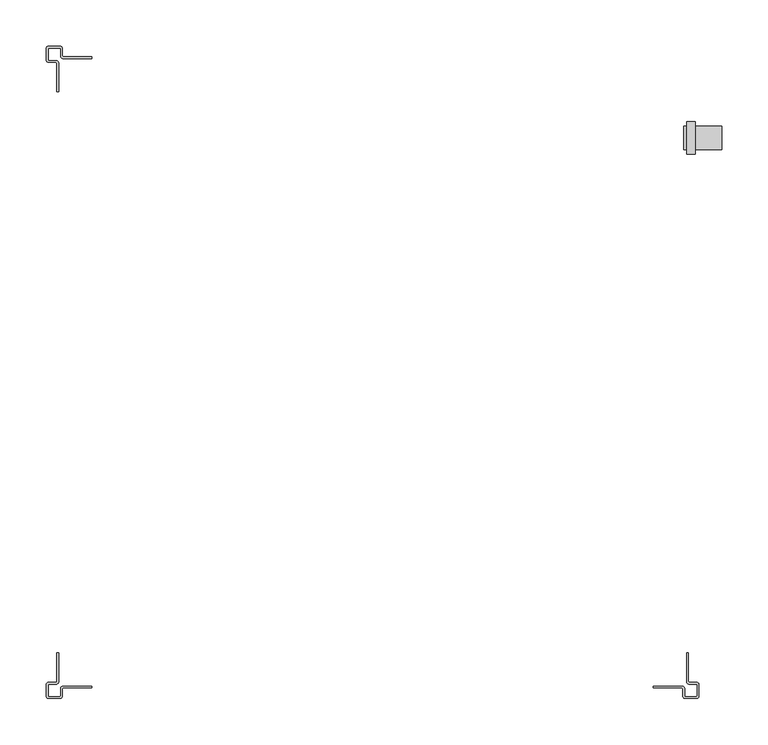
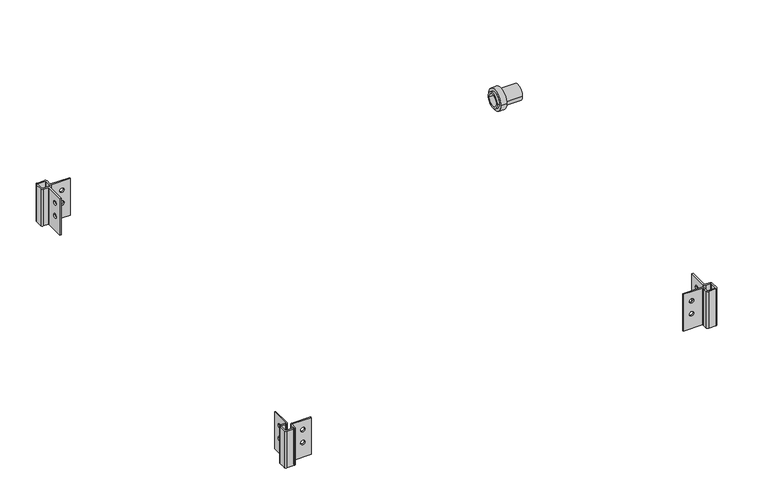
"""IFC4 building model written with IfcOpenShell, lengths in millimetres: proxy geometry, 50 SWHP-C : #50-SWHP-C."""

from ifc_helpers import new_model, si_unit, point, frame, frame_2d, origin, place, context, project, spatial, polyline, circle_curve, trimmed, segment, composite_curve, outline, extrude, source, transform, mapped, element, save
from ifc_brep_helpers import plane_surface, cylinder_surface, revolved_surface, advanced_brep


def generic_models_3e2087b7(model_context):
    return source(origin(), model_context, "Body", "SolidModel", [
        advanced_brep(
        [(341.7316, -303.7332, 63.5), (339.725, -303.7332, 63.5), (339.725, -334.8736, 63.5), (342.4936, -337.6422, 63.5), (350.393, -337.6422, 63.5), (351.155, -338.4042, 63.5), (351.155, -350.393, 63.5), (350.393, -351.155, 63.5), (338.4042, -351.155, 63.5), (337.6422, -350.393, 63.5), (337.6422, -342.4936, 63.5), (334.8736, -339.725, 63.5), (303.7332, -339.725, 63.5), (303.7332, -341.7316, 63.5), (334.8736, -341.7316, 63.5), (335.6356, -342.4936, 63.5), (335.6356, -350.393, 63.5), (338.4042, -353.1616, 63.5), (350.393, -353.1616, 63.5), (353.1616, -350.393, 63.5), (353.1616, -338.4042, 63.5), (350.393, -335.6356, 63.5), (342.4936, -335.6356, 63.5), (341.7316, -334.8736, 63.5), (341.7316, -303.7332, 0.0), (341.7316, -334.8736, 0.0), (342.4936, -335.6356, 0.0), (350.393, -335.6356, 0.0), (353.1616, -338.4042, 0.0), (353.1616, -350.393, 0.0), (350.393, -353.1616, 0.0), (338.4042, -353.1616, 0.0), (335.6356, -350.393, 0.0), (335.6356, -342.4936, 0.0), (334.8736, -341.7316, 0.0), (303.7332, -341.7316, 0.0), (303.7332, -339.725, 0.0), (334.8736, -339.725, 0.0), (337.6422, -342.4936, 0.0), (337.6422, -350.393, 0.0), (338.4042, -351.155, 0.0), (350.393, -351.155, 0.0), (351.155, -350.393, 0.0), (351.155, -338.4042, 0.0), (350.393, -337.6422, 0.0), (342.4936, -337.6422, 0.0), (339.725, -334.8736, 0.0), (339.725, -303.7332, 0.0), (339.725, -321.0687, 47.625), (339.725, -313.9313, 47.625), (339.725, -321.0687, 25.4), (339.725, -313.9313, 25.4), (313.9313, -339.725, 47.625), (321.0687, -339.725, 47.625), (313.9313, -339.725, 25.4), (321.0687, -339.725, 25.4), (321.0687, -341.7316, 47.625), (313.9313, -341.7316, 47.625), (321.0687, -341.7316, 25.4), (313.9313, -341.7316, 25.4), (341.7316, -313.9313, 47.625), (341.7316, -321.0687, 47.625), (341.7316, -313.9313, 25.4), (341.7316, -321.0687, 25.4)],
        [
            (0, 1),
            (1, 2),
            (2, 3, circle_curve(frame((342.4936, -334.8736, 63.5), z_axis=(0.0, 0.0, 1.0), x_axis=(1.0, 0.0, 0.0)), 2.7686)),
            (3, 4),
            (4, 5, circle_curve(frame((350.393, -338.4042, 63.5), z_axis=(0.0, 0.0, -1.0), x_axis=(1.0, 0.0, 0.0)), 0.762)),
            (5, 6),
            (6, 7, circle_curve(frame((350.393, -350.393, 63.5), z_axis=(0.0, 0.0, -1.0), x_axis=(1.0, 0.0, 0.0)), 0.762)),
            (7, 8),
            (8, 9, circle_curve(frame((338.4042, -350.393, 63.5), z_axis=(0.0, 0.0, -1.0), x_axis=(1.0, 0.0, 0.0)), 0.762)),
            (9, 10),
            (10, 11, circle_curve(frame((334.8736, -342.4936, 63.5), z_axis=(0.0, 0.0, 1.0), x_axis=(1.0, 0.0, 0.0)), 2.7686)),
            (11, 12),
            (12, 13),
            (13, 14),
            (14, 15, circle_curve(frame((334.8736, -342.4936, 63.5), z_axis=(0.0, 0.0, -1.0), x_axis=(1.0, 0.0, 0.0)), 0.762)),
            (15, 16),
            (16, 17, circle_curve(frame((338.4042, -350.393, 63.5), z_axis=(0.0, 0.0, 1.0), x_axis=(1.0, 0.0, 0.0)), 2.7686)),
            (17, 18),
            (18, 19, circle_curve(frame((350.393, -350.393, 63.5), z_axis=(0.0, 0.0, 1.0), x_axis=(1.0, 0.0, 0.0)), 2.7686)),
            (19, 20),
            (20, 21, circle_curve(frame((350.393, -338.4042, 63.5), z_axis=(0.0, 0.0, 1.0), x_axis=(1.0, 0.0, 0.0)), 2.7686)),
            (21, 22),
            (22, 23, circle_curve(frame((342.4936, -334.8736, 63.5), z_axis=(0.0, 0.0, -1.0), x_axis=(1.0, 0.0, 0.0)), 0.762)),
            (23, 0),
            (24, 25),
            (25, 26, circle_curve(frame((342.4936, -334.8736, 0.0), z_axis=(0.0, 0.0, 1.0), x_axis=(1.0, 0.0, 0.0)), 0.762)),
            (26, 27),
            (27, 28, circle_curve(frame((350.393, -338.4042, 0.0), z_axis=(0.0, 0.0, -1.0), x_axis=(1.0, 0.0, 0.0)), 2.7686)),
            (28, 29),
            (29, 30, circle_curve(frame((350.393, -350.393, 0.0), z_axis=(0.0, 0.0, -1.0), x_axis=(1.0, 0.0, 0.0)), 2.7686)),
            (30, 31),
            (31, 32, circle_curve(frame((338.4042, -350.393, 0.0), z_axis=(0.0, 0.0, -1.0), x_axis=(1.0, 0.0, 0.0)), 2.7686)),
            (32, 33),
            (33, 34, circle_curve(frame((334.8736, -342.4936, 0.0), z_axis=(0.0, 0.0, 1.0), x_axis=(1.0, 0.0, 0.0)), 0.762)),
            (34, 35),
            (35, 36),
            (36, 37),
            (37, 38, circle_curve(frame((334.8736, -342.4936, 0.0), z_axis=(0.0, 0.0, -1.0), x_axis=(1.0, 0.0, 0.0)), 2.7686)),
            (38, 39),
            (39, 40, circle_curve(frame((338.4042, -350.393, 0.0), z_axis=(0.0, 0.0, 1.0), x_axis=(1.0, 0.0, 0.0)), 0.762)),
            (40, 41),
            (41, 42, circle_curve(frame((350.393, -350.393, 0.0), z_axis=(0.0, 0.0, 1.0), x_axis=(1.0, 0.0, 0.0)), 0.762)),
            (42, 43),
            (43, 44, circle_curve(frame((350.393, -338.4042, 0.0), z_axis=(0.0, 0.0, 1.0), x_axis=(1.0, 0.0, 0.0)), 0.762)),
            (44, 45),
            (45, 46, circle_curve(frame((342.4936, -334.8736, 0.0), z_axis=(0.0, 0.0, -1.0), x_axis=(1.0, 0.0, 0.0)), 2.7686)),
            (46, 47),
            (47, 24),
            (0, 24),
            (47, 1),
            (46, 2),
            (48, 49, circle_curve(frame((339.725, -317.5, 47.625), z_axis=(1.0, 0.0, 0.0), x_axis=(0.0, -1.0, 0.0)), 3.5687)),
            (49, 48, circle_curve(frame((339.725, -317.5, 47.625), z_axis=(1.0, 0.0, 0.0), x_axis=(0.0, -1.0, 0.0)), 3.5687)),
            (50, 51, circle_curve(frame((339.725, -317.5, 25.4), z_axis=(1.0, 0.0, 0.0), x_axis=(0.0, -1.0, 0.0)), 3.5687)),
            (51, 50, circle_curve(frame((339.725, -317.5, 25.4), z_axis=(1.0, 0.0, 0.0), x_axis=(0.0, -1.0, 0.0)), 3.5687)),
            (45, 3),
            (44, 4),
            (43, 5),
            (42, 6),
            (41, 7),
            (40, 8),
            (39, 9),
            (38, 10),
            (37, 11),
            (36, 12),
            (52, 53, circle_curve(frame((317.5, -339.725, 47.625), z_axis=(0.0, -1.0, 0.0), x_axis=(-1.0, 0.0, 0.0)), 3.5687)),
            (53, 52, circle_curve(frame((317.5, -339.725, 47.625), z_axis=(0.0, -1.0, 0.0), x_axis=(-1.0, 0.0, 0.0)), 3.5687)),
            (54, 55, circle_curve(frame((317.5, -339.725, 25.4), z_axis=(0.0, -1.0, 0.0), x_axis=(-1.0, 0.0, 0.0)), 3.5687)),
            (55, 54, circle_curve(frame((317.5, -339.725, 25.4), z_axis=(0.0, -1.0, 0.0), x_axis=(-1.0, 0.0, 0.0)), 3.5687)),
            (35, 13),
            (34, 14),
            (56, 57, circle_curve(frame((317.5, -341.7316, 47.625), z_axis=(0.0, 1.0, 0.0), x_axis=(-1.0, 0.0, 0.0)), 3.5687)),
            (57, 56, circle_curve(frame((317.5, -341.7316, 47.625), z_axis=(0.0, 1.0, 0.0), x_axis=(-1.0, 0.0, 0.0)), 3.5687)),
            (58, 59, circle_curve(frame((317.5, -341.7316, 25.4), z_axis=(0.0, 1.0, 0.0), x_axis=(-1.0, 0.0, 0.0)), 3.5687)),
            (59, 58, circle_curve(frame((317.5, -341.7316, 25.4), z_axis=(0.0, 1.0, 0.0), x_axis=(-1.0, 0.0, 0.0)), 3.5687)),
            (33, 15),
            (32, 16),
            (31, 17),
            (30, 18),
            (29, 19),
            (28, 20),
            (27, 21),
            (26, 22),
            (25, 23),
            (60, 61, circle_curve(frame((341.7316, -317.5, 47.625), z_axis=(-1.0, 0.0, 0.0), x_axis=(0.0, -1.0, 0.0)), 3.5687)),
            (61, 60, circle_curve(frame((341.7316, -317.5, 47.625), z_axis=(-1.0, 0.0, 0.0), x_axis=(0.0, -1.0, 0.0)), 3.5687)),
            (62, 63, circle_curve(frame((341.7316, -317.5, 25.4), z_axis=(-1.0, 0.0, 0.0), x_axis=(0.0, -1.0, 0.0)), 3.5687)),
            (63, 62, circle_curve(frame((341.7316, -317.5, 25.4), z_axis=(-1.0, 0.0, 0.0), x_axis=(0.0, -1.0, 0.0)), 3.5687)),
            (56, 53),
            (52, 57),
            (58, 55),
            (54, 59),
            (60, 49),
            (48, 61),
            (62, 51),
            (50, 63),
        ],
        [
            plane_surface(frame((339.725, -303.7332, 63.5), z_axis=(0.0, 0.0, 1.0), x_axis=(-1.0, 0.0, 0.0))),
            plane_surface(frame((339.725, -303.7332, 0.0), z_axis=(0.0, 0.0, -1.0), x_axis=(1.0, 0.0, 0.0))),
            plane_surface(frame((341.7316, -303.7332, 63.5), z_axis=(0.0, 1.0, 0.0), x_axis=(0.0, 0.0, -1.0))),
            plane_surface(frame((339.725, -303.7332, 63.5), z_axis=(-1.0, 0.0, 0.0), x_axis=(0.0, 0.0, -1.0))),
            cylinder_surface(frame((342.4936, -334.8736, 0.0), z_axis=(0.0, 0.0, 1.0), x_axis=(1.0, 0.0, 0.0)), 2.7686),
            plane_surface(frame((342.4936, -337.6422, 63.5), z_axis=(0.0, -1.0, 0.0), x_axis=(0.0, 0.0, -1.0))),
            revolved_surface(polyline([(351.155, -338.4042, 0.0), (351.155, -338.4042, 63.5)]), (350.393, -338.4042, 0.0), (0.0, 0.0, -1.0)),
            plane_surface(frame((351.155, -338.4042, 63.5), z_axis=(-1.0, 0.0, 0.0), x_axis=(0.0, 0.0, -1.0))),
            revolved_surface(polyline([(351.155, -350.393, 0.0), (351.155, -350.393, 63.5)]), (350.393, -350.393, 0.0), (0.0, 0.0, -1.0)),
            plane_surface(frame((350.393, -351.155, 63.5), z_axis=(0.0, 1.0, 0.0), x_axis=(0.0, 0.0, -1.0))),
            revolved_surface(polyline([(339.1662, -350.393, 0.0), (339.1662, -350.393, 63.5)]), (338.4042, -350.393, 0.0), (0.0, 0.0, -1.0)),
            plane_surface(frame((337.6422, -350.393, 63.5), z_axis=(1.0, 0.0, 0.0), x_axis=(0.0, 0.0, -1.0))),
            cylinder_surface(frame((334.8736, -342.4936, 0.0), z_axis=(0.0, 0.0, 1.0), x_axis=(1.0, 0.0, 0.0)), 2.7686),
            plane_surface(frame((334.8736, -339.725, 63.5), z_axis=(0.0, 1.0, 0.0), x_axis=(0.0, 0.0, -1.0))),
            plane_surface(frame((303.7332, -339.725, 63.5), z_axis=(-1.0, 0.0, 0.0), x_axis=(0.0, 0.0, -1.0))),
            plane_surface(frame((303.7332, -341.7316, 63.5), z_axis=(0.0, -1.0, 0.0), x_axis=(0.0, 0.0, -1.0))),
            revolved_surface(polyline([(335.6356, -342.4936, 0.0), (335.6356, -342.4936, 63.5)]), (334.8736, -342.4936, 0.0), (0.0, 0.0, -1.0)),
            plane_surface(frame((335.6356, -342.4936, 63.5), z_axis=(-1.0, 0.0, 0.0), x_axis=(0.0, 0.0, -1.0))),
            cylinder_surface(frame((338.4042, -350.393, 0.0), z_axis=(0.0, 0.0, 1.0), x_axis=(1.0, 0.0, 0.0)), 2.7686),
            plane_surface(frame((338.4042, -353.1616, 63.5), z_axis=(0.0, -1.0, 0.0), x_axis=(0.0, 0.0, -1.0))),
            cylinder_surface(frame((350.393, -350.393, 0.0), z_axis=(0.0, 0.0, 1.0), x_axis=(1.0, 0.0, 0.0)), 2.7686),
            plane_surface(frame((353.1616, -350.393, 63.5), z_axis=(1.0, 0.0, 0.0), x_axis=(0.0, 0.0, -1.0))),
            cylinder_surface(frame((350.393, -338.4042, 0.0), z_axis=(0.0, 0.0, 1.0), x_axis=(1.0, 0.0, 0.0)), 2.7686),
            plane_surface(frame((350.393, -335.6356, 63.5), z_axis=(0.0, 1.0, 0.0), x_axis=(0.0, 0.0, -1.0))),
            revolved_surface(polyline([(343.2556, -334.8736, 0.0), (343.2556, -334.8736, 63.5)]), (342.4936, -334.8736, 0.0), (0.0, 0.0, -1.0)),
            plane_surface(frame((341.7316, -334.8736, 63.5), z_axis=(1.0, 0.0, 0.0), x_axis=(0.0, 0.0, -1.0))),
            revolved_surface(polyline([(313.9313, -339.725, 47.625), (313.9313, -341.7316, 47.625)]), (317.5, -344.3986, 47.625), (0.0, 1.0, 0.0)),
            revolved_surface(polyline([(313.9313, -339.725, 25.4), (313.9313, -341.7316, 25.4)]), (317.5, -344.3986, 25.4), (0.0, 1.0, 0.0)),
            revolved_surface(polyline([(339.725, -321.0687, 47.625), (341.7316, -321.0687, 47.625)]), (344.3986, -317.5, 47.625), (-1.0, 0.0, 0.0)),
            revolved_surface(polyline([(339.725, -321.0687, 25.4), (341.7316, -321.0687, 25.4)]), (344.3986, -317.5, 25.4), (-1.0, 0.0, 0.0)),
        ],
        [
            (0, [[1, 2, 3, 4, 5, 6, 7, 8, 9, 10, 11, 12, 13, 14, 15, 16, 17, 18, 19, 20, 21, 22, 23, 24]]),
            (1, [[25, 26, 27, 28, 29, 30, 31, 32, 33, 34, 35, 36, 37, 38, 39, 40, 41, 42, 43, 44, 45, 46, 47, 48]]),
            (2, [[-1, 49, -48, 50]]),
            (3, [[-2, -50, -47, 51], [52, 53], [54, 55]]),
            (4, [[-3, -51, -46, 56]]),
            (5, [[-4, -56, -45, 57]]),
            (6, [[-5, -57, -44, 58]]),
            (7, [[-6, -58, -43, 59]]),
            (8, [[-7, -59, -42, 60]]),
            (9, [[-8, -60, -41, 61]]),
            (10, [[-9, -61, -40, 62]]),
            (11, [[-10, -62, -39, 63]]),
            (12, [[-11, -63, -38, 64]]),
            (13, [[-12, -64, -37, 65], [66, 67], [68, 69]]),
            (14, [[-13, -65, -36, 70]]),
            (15, [[-14, -70, -35, 71], [72, 73], [74, 75]]),
            (16, [[-15, -71, -34, 76]]),
            (17, [[-16, -76, -33, 77]]),
            (18, [[-17, -77, -32, 78]]),
            (19, [[-18, -78, -31, 79]]),
            (20, [[-19, -79, -30, 80]]),
            (21, [[-20, -80, -29, 81]]),
            (22, [[-21, -81, -28, 82]]),
            (23, [[-22, -82, -27, 83]]),
            (24, [[-23, -83, -26, 84]]),
            (25, [[-24, -84, -25, -49], [85, 86], [87, 88]]),
            (26, [[89, -66, 90, -72]]),
            (26, [[-89, -73, -90, -67]]),
            (27, [[91, -68, 92, -74]]),
            (27, [[-91, -75, -92, -69]]),
            (28, [[93, -52, 94, -85]]),
            (28, [[-93, -86, -94, -53]]),
            (29, [[95, -54, 96, -87]]),
            (29, [[-95, -88, -96, -55]]),
        ],
    ),
        advanced_brep(
        [(-341.7316, -334.8736, 63.5), (-342.4936, -335.6356, 63.5), (-350.393, -335.6356, 63.5), (-353.1616, -338.4042, 63.5), (-353.1616, -350.393, 63.5), (-350.393, -353.1616, 63.5), (-338.4042, -353.1616, 63.5), (-335.6356, -350.393, 63.5), (-335.6356, -342.4936, 63.5), (-334.8736, -341.7316, 63.5), (-303.7332, -341.7316, 63.5), (-303.7332, -339.725, 63.5), (-334.8736, -339.725, 63.5), (-337.6422, -342.4936, 63.5), (-337.6422, -350.393, 63.5), (-338.4042, -351.155, 63.5), (-350.393, -351.155, 63.5), (-351.155, -350.393, 63.5), (-351.155, -338.4042, 63.5), (-350.393, -337.6422, 63.5), (-342.4936, -337.6422, 63.5), (-339.725, -334.8736, 63.5), (-339.725, -303.7332, 63.5), (-341.7316, -303.7332, 63.5), (-341.7316, -334.8736, 0.0), (-341.7316, -303.7332, 0.0), (-339.725, -303.7332, 0.0), (-339.725, -334.8736, 0.0), (-342.4936, -337.6422, 0.0), (-350.393, -337.6422, 0.0), (-351.155, -338.4042, 0.0), (-351.155, -350.393, 0.0), (-350.393, -351.155, 0.0), (-338.4042, -351.155, 0.0), (-337.6422, -350.393, 0.0), (-337.6422, -342.4936, 0.0), (-334.8736, -339.725, 0.0), (-303.7332, -339.725, 0.0), (-303.7332, -341.7316, 0.0), (-334.8736, -341.7316, 0.0), (-335.6356, -342.4936, 0.0), (-335.6356, -350.393, 0.0), (-338.4042, -353.1616, 0.0), (-350.393, -353.1616, 0.0), (-353.1616, -350.393, 0.0), (-353.1616, -338.4042, 0.0), (-350.393, -335.6356, 0.0), (-342.4936, -335.6356, 0.0), (-313.9313, -341.7316, 47.625), (-321.0687, -341.7316, 47.625), (-313.9313, -341.7316, 25.4), (-321.0687, -341.7316, 25.4), (-321.0687, -339.725, 47.625), (-313.9313, -339.725, 47.625), (-321.0687, -339.725, 25.4), (-313.9313, -339.725, 25.4), (-339.725, -313.9313, 47.625), (-339.725, -321.0687, 47.625), (-339.725, -313.9313, 25.4), (-339.725, -321.0687, 25.4), (-341.7316, -321.0687, 47.625), (-341.7316, -313.9313, 47.625), (-341.7316, -321.0687, 25.4), (-341.7316, -313.9313, 25.4)],
        [
            (0, 1, circle_curve(frame((-342.4936, -334.8736, 63.5), z_axis=(0.0, 0.0, -1.0), x_axis=(1.0, 0.0, 0.0)), 0.762)),
            (1, 2),
            (2, 3, circle_curve(frame((-350.393, -338.4042, 63.5), z_axis=(0.0, 0.0, 1.0), x_axis=(1.0, 0.0, 0.0)), 2.7686)),
            (3, 4),
            (4, 5, circle_curve(frame((-350.393, -350.393, 63.5), z_axis=(0.0, 0.0, 1.0), x_axis=(1.0, 0.0, 0.0)), 2.7686)),
            (5, 6),
            (6, 7, circle_curve(frame((-338.4042, -350.393, 63.5), z_axis=(0.0, 0.0, 1.0), x_axis=(1.0, 0.0, 0.0)), 2.7686)),
            (7, 8),
            (8, 9, circle_curve(frame((-334.8736, -342.4936, 63.5), z_axis=(0.0, 0.0, -1.0), x_axis=(1.0, 0.0, 0.0)), 0.762)),
            (9, 10),
            (10, 11),
            (11, 12),
            (12, 13, circle_curve(frame((-334.8736, -342.4936, 63.5), z_axis=(0.0, 0.0, 1.0), x_axis=(1.0, 0.0, 0.0)), 2.7686)),
            (13, 14),
            (14, 15, circle_curve(frame((-338.4042, -350.393, 63.5), z_axis=(0.0, 0.0, -1.0), x_axis=(1.0, 0.0, 0.0)), 0.762)),
            (15, 16),
            (16, 17, circle_curve(frame((-350.393, -350.393, 63.5), z_axis=(0.0, 0.0, -1.0), x_axis=(1.0, 0.0, 0.0)), 0.762)),
            (17, 18),
            (18, 19, circle_curve(frame((-350.393, -338.4042, 63.5), z_axis=(0.0, 0.0, -1.0), x_axis=(1.0, 0.0, 0.0)), 0.762)),
            (19, 20),
            (20, 21, circle_curve(frame((-342.4936, -334.8736, 63.5), z_axis=(0.0, 0.0, 1.0), x_axis=(1.0, 0.0, 0.0)), 2.7686)),
            (21, 22),
            (22, 23),
            (23, 0),
            (24, 25),
            (25, 26),
            (26, 27),
            (27, 28, circle_curve(frame((-342.4936, -334.8736, 0.0), z_axis=(0.0, 0.0, -1.0), x_axis=(1.0, 0.0, 0.0)), 2.7686)),
            (28, 29),
            (29, 30, circle_curve(frame((-350.393, -338.4042, 0.0), z_axis=(0.0, 0.0, 1.0), x_axis=(1.0, 0.0, 0.0)), 0.762)),
            (30, 31),
            (31, 32, circle_curve(frame((-350.393, -350.393, 0.0), z_axis=(0.0, 0.0, 1.0), x_axis=(1.0, 0.0, 0.0)), 0.762)),
            (32, 33),
            (33, 34, circle_curve(frame((-338.4042, -350.393, 0.0), z_axis=(0.0, 0.0, 1.0), x_axis=(1.0, 0.0, 0.0)), 0.762)),
            (34, 35),
            (35, 36, circle_curve(frame((-334.8736, -342.4936, 0.0), z_axis=(0.0, 0.0, -1.0), x_axis=(1.0, 0.0, 0.0)), 2.7686)),
            (36, 37),
            (37, 38),
            (38, 39),
            (39, 40, circle_curve(frame((-334.8736, -342.4936, 0.0), z_axis=(0.0, 0.0, 1.0), x_axis=(1.0, 0.0, 0.0)), 0.762)),
            (40, 41),
            (41, 42, circle_curve(frame((-338.4042, -350.393, 0.0), z_axis=(0.0, 0.0, -1.0), x_axis=(1.0, 0.0, 0.0)), 2.7686)),
            (42, 43),
            (43, 44, circle_curve(frame((-350.393, -350.393, 0.0), z_axis=(0.0, 0.0, -1.0), x_axis=(1.0, 0.0, 0.0)), 2.7686)),
            (44, 45),
            (45, 46, circle_curve(frame((-350.393, -338.4042, 0.0), z_axis=(0.0, 0.0, -1.0), x_axis=(1.0, 0.0, 0.0)), 2.7686)),
            (46, 47),
            (47, 24, circle_curve(frame((-342.4936, -334.8736, 0.0), z_axis=(0.0, 0.0, 1.0), x_axis=(1.0, 0.0, 0.0)), 0.762)),
            (0, 24),
            (47, 1),
            (46, 2),
            (45, 3),
            (44, 4),
            (43, 5),
            (42, 6),
            (41, 7),
            (40, 8),
            (39, 9),
            (38, 10),
            (48, 49, circle_curve(frame((-317.5, -341.7316, 47.625), z_axis=(0.0, 1.0, 0.0), x_axis=(-1.0, 0.0, 0.0)), 3.5687)),
            (49, 48, circle_curve(frame((-317.5, -341.7316, 47.625), z_axis=(0.0, 1.0, 0.0), x_axis=(-1.0, 0.0, 0.0)), 3.5687)),
            (50, 51, circle_curve(frame((-317.5, -341.7316, 25.4), z_axis=(0.0, 1.0, 0.0), x_axis=(-1.0, 0.0, 0.0)), 3.5687)),
            (51, 50, circle_curve(frame((-317.5, -341.7316, 25.4), z_axis=(0.0, 1.0, 0.0), x_axis=(-1.0, 0.0, 0.0)), 3.5687)),
            (37, 11),
            (36, 12),
            (52, 53, circle_curve(frame((-317.5, -339.725, 47.625), z_axis=(0.0, -1.0, 0.0), x_axis=(-1.0, 0.0, 0.0)), 3.5687)),
            (53, 52, circle_curve(frame((-317.5, -339.725, 47.625), z_axis=(0.0, -1.0, 0.0), x_axis=(-1.0, 0.0, 0.0)), 3.5687)),
            (54, 55, circle_curve(frame((-317.5, -339.725, 25.4), z_axis=(0.0, -1.0, 0.0), x_axis=(-1.0, 0.0, 0.0)), 3.5687)),
            (55, 54, circle_curve(frame((-317.5, -339.725, 25.4), z_axis=(0.0, -1.0, 0.0), x_axis=(-1.0, 0.0, 0.0)), 3.5687)),
            (35, 13),
            (34, 14),
            (33, 15),
            (32, 16),
            (31, 17),
            (30, 18),
            (29, 19),
            (28, 20),
            (27, 21),
            (26, 22),
            (56, 57, circle_curve(frame((-339.725, -317.5, 47.625), z_axis=(-1.0, 0.0, 0.0), x_axis=(0.0, -1.0, 0.0)), 3.5687)),
            (57, 56, circle_curve(frame((-339.725, -317.5, 47.625), z_axis=(-1.0, 0.0, 0.0), x_axis=(0.0, -1.0, 0.0)), 3.5687)),
            (58, 59, circle_curve(frame((-339.725, -317.5, 25.4), z_axis=(-1.0, 0.0, 0.0), x_axis=(0.0, -1.0, 0.0)), 3.5687)),
            (59, 58, circle_curve(frame((-339.725, -317.5, 25.4), z_axis=(-1.0, 0.0, 0.0), x_axis=(0.0, -1.0, 0.0)), 3.5687)),
            (25, 23),
            (60, 61, circle_curve(frame((-341.7316, -317.5, 47.625), z_axis=(1.0, 0.0, 0.0), x_axis=(0.0, -1.0, 0.0)), 3.5687)),
            (61, 60, circle_curve(frame((-341.7316, -317.5, 47.625), z_axis=(1.0, 0.0, 0.0), x_axis=(0.0, -1.0, 0.0)), 3.5687)),
            (62, 63, circle_curve(frame((-341.7316, -317.5, 25.4), z_axis=(1.0, 0.0, 0.0), x_axis=(0.0, -1.0, 0.0)), 3.5687)),
            (63, 62, circle_curve(frame((-341.7316, -317.5, 25.4), z_axis=(1.0, 0.0, 0.0), x_axis=(0.0, -1.0, 0.0)), 3.5687)),
            (56, 61),
            (60, 57),
            (58, 63),
            (62, 59),
            (48, 53),
            (52, 49),
            (50, 55),
            (54, 51),
        ],
        [
            plane_surface(frame((-341.7316, -334.8736, 63.5), z_axis=(0.0, 0.0, 1.0), x_axis=(0.0, -1.0, 0.0))),
            plane_surface(frame((-341.7316, -334.8736, 0.0), z_axis=(0.0, 0.0, -1.0), x_axis=(0.0, 1.0, 0.0))),
            revolved_surface(polyline([(-341.7316, -334.8736, 0.0), (-341.7316, -334.8736, 63.5)]), (-342.4936, -334.8736, 0.0), (0.0, 0.0, -1.0)),
            plane_surface(frame((-342.4936, -335.6356, 63.5), z_axis=(0.0, 1.0, 0.0), x_axis=(0.0, 0.0, -1.0))),
            cylinder_surface(frame((-350.393, -338.4042, 0.0), z_axis=(0.0, 0.0, 1.0), x_axis=(1.0, 0.0, 0.0)), 2.7686),
            plane_surface(frame((-353.1616, -338.4042, 63.5), z_axis=(-1.0, 0.0, 0.0), x_axis=(0.0, 0.0, -1.0))),
            cylinder_surface(frame((-350.393, -350.393, 0.0), z_axis=(0.0, 0.0, 1.0), x_axis=(1.0, 0.0, 0.0)), 2.7686),
            plane_surface(frame((-350.393, -353.1616, 63.5), z_axis=(0.0, -1.0, 0.0), x_axis=(0.0, 0.0, -1.0))),
            cylinder_surface(frame((-338.4042, -350.393, 0.0), z_axis=(0.0, 0.0, 1.0), x_axis=(1.0, 0.0, 0.0)), 2.7686),
            plane_surface(frame((-335.6356, -350.393, 63.5), z_axis=(1.0, 0.0, 0.0), x_axis=(0.0, 0.0, -1.0))),
            revolved_surface(polyline([(-334.1116, -342.4936, 0.0), (-334.1116, -342.4936, 63.5)]), (-334.8736, -342.4936, 0.0), (0.0, 0.0, -1.0)),
            plane_surface(frame((-334.8736, -341.7316, 63.5), z_axis=(0.0, -1.0, 0.0), x_axis=(0.0, 0.0, -1.0))),
            plane_surface(frame((-303.7332, -341.7316, 63.5), z_axis=(1.0, 0.0, 0.0), x_axis=(0.0, 0.0, -1.0))),
            plane_surface(frame((-303.7332, -339.725, 63.5), z_axis=(0.0, 1.0, 0.0), x_axis=(0.0, 0.0, -1.0))),
            cylinder_surface(frame((-334.8736, -342.4936, 0.0), z_axis=(0.0, 0.0, 1.0), x_axis=(1.0, 0.0, 0.0)), 2.7686),
            plane_surface(frame((-337.6422, -342.4936, 63.5), z_axis=(-1.0, 0.0, 0.0), x_axis=(0.0, 0.0, -1.0))),
            revolved_surface(polyline([(-337.6422, -350.393, 0.0), (-337.6422, -350.393, 63.5)]), (-338.4042, -350.393, 0.0), (0.0, 0.0, -1.0)),
            plane_surface(frame((-338.4042, -351.155, 63.5), z_axis=(0.0, 1.0, 0.0), x_axis=(0.0, 0.0, -1.0))),
            revolved_surface(polyline([(-349.631, -350.393, 0.0), (-349.631, -350.393, 63.5)]), (-350.393, -350.393, 0.0), (0.0, 0.0, -1.0)),
            plane_surface(frame((-351.155, -350.393, 63.5), z_axis=(1.0, 0.0, 0.0), x_axis=(0.0, 0.0, -1.0))),
            revolved_surface(polyline([(-349.631, -338.4042, 0.0), (-349.631, -338.4042, 63.5)]), (-350.393, -338.4042, 0.0), (0.0, 0.0, -1.0)),
            plane_surface(frame((-350.393, -337.6422, 63.5), z_axis=(0.0, -1.0, 0.0), x_axis=(0.0, 0.0, -1.0))),
            cylinder_surface(frame((-342.4936, -334.8736, 0.0), z_axis=(0.0, 0.0, 1.0), x_axis=(1.0, 0.0, 0.0)), 2.7686),
            plane_surface(frame((-339.725, -334.8736, 63.5), z_axis=(1.0, 0.0, 0.0), x_axis=(0.0, 0.0, -1.0))),
            plane_surface(frame((-339.725, -303.7332, 63.5), z_axis=(0.0, 1.0, 0.0), x_axis=(0.0, 0.0, -1.0))),
            plane_surface(frame((-341.7316, -303.7332, 63.5), z_axis=(-1.0, 0.0, 0.0), x_axis=(0.0, 0.0, -1.0))),
            revolved_surface(polyline([(-341.7316, -321.0687, 47.625), (-339.725, -321.0687, 47.625)]), (-336.55, -317.5, 47.625), (-1.0, 0.0, 0.0)),
            revolved_surface(polyline([(-341.7316, -321.0687, 25.4), (-339.725, -321.0687, 25.4)]), (-344.3986, -317.5, 25.4), (-1.0, 0.0, 0.0)),
            revolved_surface(polyline([(-321.0687, -339.725, 47.625), (-321.0687, -341.7316, 47.625)]), (-317.5, -344.3986, 47.625), (0.0, 1.0, 0.0)),
            revolved_surface(polyline([(-321.0687, -339.725, 25.4), (-321.0687, -341.7316, 25.4)]), (-317.5, -344.3986, 25.4), (0.0, 1.0, 0.0)),
        ],
        [
            (0, [[1, 2, 3, 4, 5, 6, 7, 8, 9, 10, 11, 12, 13, 14, 15, 16, 17, 18, 19, 20, 21, 22, 23, 24]]),
            (1, [[25, 26, 27, 28, 29, 30, 31, 32, 33, 34, 35, 36, 37, 38, 39, 40, 41, 42, 43, 44, 45, 46, 47, 48]]),
            (2, [[-1, 49, -48, 50]]),
            (3, [[-2, -50, -47, 51]]),
            (4, [[-3, -51, -46, 52]]),
            (5, [[-4, -52, -45, 53]]),
            (6, [[-5, -53, -44, 54]]),
            (7, [[-6, -54, -43, 55]]),
            (8, [[-7, -55, -42, 56]]),
            (9, [[-8, -56, -41, 57]]),
            (10, [[-9, -57, -40, 58]]),
            (11, [[-10, -58, -39, 59], [60, 61], [62, 63]]),
            (12, [[-11, -59, -38, 64]]),
            (13, [[-12, -64, -37, 65], [66, 67], [68, 69]]),
            (14, [[-13, -65, -36, 70]]),
            (15, [[-14, -70, -35, 71]]),
            (16, [[-15, -71, -34, 72]]),
            (17, [[-16, -72, -33, 73]]),
            (18, [[-17, -73, -32, 74]]),
            (19, [[-18, -74, -31, 75]]),
            (20, [[-19, -75, -30, 76]]),
            (21, [[-20, -76, -29, 77]]),
            (22, [[-21, -77, -28, 78]]),
            (23, [[-22, -78, -27, 79], [80, 81], [82, 83]]),
            (24, [[-23, -79, -26, 84]]),
            (25, [[-24, -84, -25, -49], [85, 86], [87, 88]]),
            (26, [[89, -85, 90, -80]]),
            (26, [[-89, -81, -90, -86]]),
            (27, [[91, -87, 92, -82]]),
            (27, [[-91, -83, -92, -88]]),
            (28, [[93, -66, 94, -60]]),
            (28, [[-93, -61, -94, -67]]),
            (29, [[95, -68, 96, -62]]),
            (29, [[-95, -63, -96, -69]]),
        ],
    ),
        advanced_brep(
        [(-303.7332, 341.7316, 63.5), (-334.8736, 341.7316, 63.5), (-335.6356, 342.4936, 63.5), (-335.6356, 350.393, 63.5), (-338.4042, 353.1616, 63.5), (-350.393, 353.1616, 63.5), (-353.1616, 350.393, 63.5), (-353.1616, 338.4042, 63.5), (-350.393, 335.6356, 63.5), (-342.4936, 335.6356, 63.5), (-341.7316, 334.8736, 63.5), (-341.7316, 303.7332, 63.5), (-339.725, 303.7332, 63.5), (-339.725, 334.8736, 63.5), (-342.4936, 337.6422, 63.5), (-350.393, 337.6422, 63.5), (-351.155, 338.4042, 63.5), (-351.155, 350.393, 63.5), (-350.393, 351.155, 63.5), (-338.4042, 351.155, 63.5), (-337.6422, 350.393, 63.5), (-337.6422, 342.4936, 63.5), (-334.8736, 339.725, 63.5), (-303.7332, 339.725, 63.5), (-303.7332, 341.7316, 0.0), (-303.7332, 339.725, 0.0), (-334.8736, 339.725, 0.0), (-337.6422, 342.4936, 0.0), (-337.6422, 350.393, 0.0), (-338.4042, 351.155, 0.0), (-350.393, 351.155, 0.0), (-351.155, 350.393, 0.0), (-351.155, 338.4042, 0.0), (-350.393, 337.6422, 0.0), (-342.4936, 337.6422, 0.0), (-339.725, 334.8736, 0.0), (-339.725, 303.7332, 0.0), (-341.7316, 303.7332, 0.0), (-341.7316, 334.8736, 0.0), (-342.4936, 335.6356, 0.0), (-350.393, 335.6356, 0.0), (-353.1616, 338.4042, 0.0), (-353.1616, 350.393, 0.0), (-350.393, 353.1616, 0.0), (-338.4042, 353.1616, 0.0), (-335.6356, 350.393, 0.0), (-335.6356, 342.4936, 0.0), (-334.8736, 341.7316, 0.0), (-321.0687, 341.7316, 47.625), (-313.9313, 341.7316, 47.625), (-321.0687, 341.7316, 25.4), (-313.9313, 341.7316, 25.4), (-341.7316, 313.9313, 47.625), (-341.7316, 321.0687, 47.625), (-341.7316, 313.9313, 25.4), (-341.7316, 321.0687, 25.4), (-339.725, 321.0687, 47.625), (-339.725, 313.9313, 47.625), (-339.725, 321.0687, 25.4), (-339.725, 313.9313, 25.4), (-313.9313, 339.725, 47.625), (-321.0687, 339.725, 47.625), (-313.9313, 339.725, 25.4), (-321.0687, 339.725, 25.4)],
        [
            (0, 1),
            (1, 2, circle_curve(frame((-334.8736, 342.4936, 63.5), z_axis=(0.0, 0.0, -1.0), x_axis=(1.0, 0.0, 0.0)), 0.762)),
            (2, 3),
            (3, 4, circle_curve(frame((-338.4042, 350.393, 63.5), z_axis=(0.0, 0.0, 1.0), x_axis=(1.0, 0.0, 0.0)), 2.7686)),
            (4, 5),
            (5, 6, circle_curve(frame((-350.393, 350.393, 63.5), z_axis=(0.0, 0.0, 1.0), x_axis=(1.0, 0.0, 0.0)), 2.7686)),
            (6, 7),
            (7, 8, circle_curve(frame((-350.393, 338.4042, 63.5), z_axis=(0.0, 0.0, 1.0), x_axis=(1.0, 0.0, 0.0)), 2.7686)),
            (8, 9),
            (9, 10, circle_curve(frame((-342.4936, 334.8736, 63.5), z_axis=(0.0, 0.0, -1.0), x_axis=(1.0, 0.0, 0.0)), 0.762)),
            (10, 11),
            (11, 12),
            (12, 13),
            (13, 14, circle_curve(frame((-342.4936, 334.8736, 63.5), z_axis=(0.0, 0.0, 1.0), x_axis=(1.0, 0.0, 0.0)), 2.7686)),
            (14, 15),
            (15, 16, circle_curve(frame((-350.393, 338.4042, 63.5), z_axis=(0.0, 0.0, -1.0), x_axis=(1.0, 0.0, 0.0)), 0.762)),
            (16, 17),
            (17, 18, circle_curve(frame((-350.393, 350.393, 63.5), z_axis=(0.0, 0.0, -1.0), x_axis=(1.0, 0.0, 0.0)), 0.762)),
            (18, 19),
            (19, 20, circle_curve(frame((-338.4042, 350.393, 63.5), z_axis=(0.0, 0.0, -1.0), x_axis=(1.0, 0.0, 0.0)), 0.762)),
            (20, 21),
            (21, 22, circle_curve(frame((-334.8736, 342.4936, 63.5), z_axis=(0.0, 0.0, 1.0), x_axis=(1.0, 0.0, 0.0)), 2.7686)),
            (22, 23),
            (23, 0),
            (24, 25),
            (25, 26),
            (26, 27, circle_curve(frame((-334.8736, 342.4936, 0.0), z_axis=(0.0, 0.0, -1.0), x_axis=(1.0, 0.0, 0.0)), 2.7686)),
            (27, 28),
            (28, 29, circle_curve(frame((-338.4042, 350.393, 0.0), z_axis=(0.0, 0.0, 1.0), x_axis=(1.0, 0.0, 0.0)), 0.762)),
            (29, 30),
            (30, 31, circle_curve(frame((-350.393, 350.393, 0.0), z_axis=(0.0, 0.0, 1.0), x_axis=(1.0, 0.0, 0.0)), 0.762)),
            (31, 32),
            (32, 33, circle_curve(frame((-350.393, 338.4042, 0.0), z_axis=(0.0, 0.0, 1.0), x_axis=(1.0, 0.0, 0.0)), 0.762)),
            (33, 34),
            (34, 35, circle_curve(frame((-342.4936, 334.8736, 0.0), z_axis=(0.0, 0.0, -1.0), x_axis=(1.0, 0.0, 0.0)), 2.7686)),
            (35, 36),
            (36, 37),
            (37, 38),
            (38, 39, circle_curve(frame((-342.4936, 334.8736, 0.0), z_axis=(0.0, 0.0, 1.0), x_axis=(1.0, 0.0, 0.0)), 0.762)),
            (39, 40),
            (40, 41, circle_curve(frame((-350.393, 338.4042, 0.0), z_axis=(0.0, 0.0, -1.0), x_axis=(1.0, 0.0, 0.0)), 2.7686)),
            (41, 42),
            (42, 43, circle_curve(frame((-350.393, 350.393, 0.0), z_axis=(0.0, 0.0, -1.0), x_axis=(1.0, 0.0, 0.0)), 2.7686)),
            (43, 44),
            (44, 45, circle_curve(frame((-338.4042, 350.393, 0.0), z_axis=(0.0, 0.0, -1.0), x_axis=(1.0, 0.0, 0.0)), 2.7686)),
            (45, 46),
            (46, 47, circle_curve(frame((-334.8736, 342.4936, 0.0), z_axis=(0.0, 0.0, 1.0), x_axis=(1.0, 0.0, 0.0)), 0.762)),
            (47, 24),
            (0, 24),
            (47, 1),
            (48, 49, circle_curve(frame((-317.5, 341.7316, 47.625), z_axis=(0.0, -1.0, 0.0), x_axis=(-1.0, 0.0, 0.0)), 3.5687)),
            (49, 48, circle_curve(frame((-317.5, 341.7316, 47.625), z_axis=(0.0, -1.0, 0.0), x_axis=(-1.0, 0.0, 0.0)), 3.5687)),
            (50, 51, circle_curve(frame((-317.5, 341.7316, 25.4), z_axis=(0.0, -1.0, 0.0), x_axis=(-1.0, 0.0, 0.0)), 3.5687)),
            (51, 50, circle_curve(frame((-317.5, 341.7316, 25.4), z_axis=(0.0, -1.0, 0.0), x_axis=(-1.0, 0.0, 0.0)), 3.5687)),
            (46, 2),
            (45, 3),
            (44, 4),
            (43, 5),
            (42, 6),
            (41, 7),
            (40, 8),
            (39, 9),
            (38, 10),
            (37, 11),
            (52, 53, circle_curve(frame((-341.7316, 317.5, 47.625), z_axis=(1.0, 0.0, 0.0), x_axis=(0.0, -1.0, 0.0)), 3.5687)),
            (53, 52, circle_curve(frame((-341.7316, 317.5, 47.625), z_axis=(1.0, 0.0, 0.0), x_axis=(0.0, -1.0, 0.0)), 3.5687)),
            (54, 55, circle_curve(frame((-341.7316, 317.5, 25.4), z_axis=(1.0, 0.0, 0.0), x_axis=(0.0, -1.0, 0.0)), 3.5687)),
            (55, 54, circle_curve(frame((-341.7316, 317.5, 25.4), z_axis=(1.0, 0.0, 0.0), x_axis=(0.0, -1.0, 0.0)), 3.5687)),
            (36, 12),
            (35, 13),
            (56, 57, circle_curve(frame((-339.725, 317.5, 47.625), z_axis=(-1.0, 0.0, 0.0), x_axis=(0.0, -1.0, 0.0)), 3.5687)),
            (57, 56, circle_curve(frame((-339.725, 317.5, 47.625), z_axis=(-1.0, 0.0, 0.0), x_axis=(0.0, -1.0, 0.0)), 3.5687)),
            (58, 59, circle_curve(frame((-339.725, 317.5, 25.4), z_axis=(-1.0, 0.0, 0.0), x_axis=(0.0, -1.0, 0.0)), 3.5687)),
            (59, 58, circle_curve(frame((-339.725, 317.5, 25.4), z_axis=(-1.0, 0.0, 0.0), x_axis=(0.0, -1.0, 0.0)), 3.5687)),
            (34, 14),
            (33, 15),
            (32, 16),
            (31, 17),
            (30, 18),
            (29, 19),
            (28, 20),
            (27, 21),
            (26, 22),
            (25, 23),
            (60, 61, circle_curve(frame((-317.5, 339.725, 47.625), z_axis=(0.0, 1.0, 0.0), x_axis=(-1.0, 0.0, 0.0)), 3.5687)),
            (61, 60, circle_curve(frame((-317.5, 339.725, 47.625), z_axis=(0.0, 1.0, 0.0), x_axis=(-1.0, 0.0, 0.0)), 3.5687)),
            (62, 63, circle_curve(frame((-317.5, 339.725, 25.4), z_axis=(0.0, 1.0, 0.0), x_axis=(-1.0, 0.0, 0.0)), 3.5687)),
            (63, 62, circle_curve(frame((-317.5, 339.725, 25.4), z_axis=(0.0, 1.0, 0.0), x_axis=(-1.0, 0.0, 0.0)), 3.5687)),
            (56, 53),
            (52, 57),
            (58, 55),
            (54, 59),
            (60, 49),
            (48, 61),
            (62, 51),
            (50, 63),
        ],
        [
            plane_surface(frame((-334.8736, 341.7316, 63.5), z_axis=(0.0, 0.0, 1.0), x_axis=(-1.0, 0.0, 0.0))),
            plane_surface(frame((-334.8736, 341.7316, 0.0), z_axis=(0.0, 0.0, -1.0), x_axis=(1.0, 0.0, 0.0))),
            plane_surface(frame((-303.7332, 341.7316, 63.5), z_axis=(0.0, 1.0, 0.0), x_axis=(0.0, 0.0, -1.0))),
            revolved_surface(polyline([(-334.1116, 342.4936, 0.0), (-334.1116, 342.4936, 63.5)]), (-334.8736, 342.4936, 0.0), (0.0, 0.0, -1.0)),
            plane_surface(frame((-335.6356, 342.4936, 63.5), z_axis=(1.0, 0.0, 0.0), x_axis=(0.0, 0.0, -1.0))),
            cylinder_surface(frame((-338.4042, 350.393, 0.0), z_axis=(0.0, 0.0, 1.0), x_axis=(1.0, 0.0, 0.0)), 2.7686),
            plane_surface(frame((-338.4042, 353.1616, 63.5), z_axis=(0.0, 1.0, 0.0), x_axis=(0.0, 0.0, -1.0))),
            cylinder_surface(frame((-350.393, 350.393, 0.0), z_axis=(0.0, 0.0, 1.0), x_axis=(1.0, 0.0, 0.0)), 2.7686),
            plane_surface(frame((-353.1616, 350.393, 63.5), z_axis=(-1.0, 0.0, 0.0), x_axis=(0.0, 0.0, -1.0))),
            cylinder_surface(frame((-350.393, 338.4042, 0.0), z_axis=(0.0, 0.0, 1.0), x_axis=(1.0, 0.0, 0.0)), 2.7686),
            plane_surface(frame((-350.393, 335.6356, 63.5), z_axis=(0.0, -1.0, 0.0), x_axis=(0.0, 0.0, -1.0))),
            revolved_surface(polyline([(-341.7316, 334.8736, 0.0), (-341.7316, 334.8736, 63.5)]), (-342.4936, 334.8736, 0.0), (0.0, 0.0, -1.0)),
            plane_surface(frame((-341.7316, 334.8736, 63.5), z_axis=(-1.0, 0.0, 0.0), x_axis=(0.0, 0.0, -1.0))),
            plane_surface(frame((-341.7316, 303.7332, 63.5), z_axis=(0.0, -1.0, 0.0), x_axis=(0.0, 0.0, -1.0))),
            plane_surface(frame((-339.725, 303.7332, 63.5), z_axis=(1.0, 0.0, 0.0), x_axis=(0.0, 0.0, -1.0))),
            cylinder_surface(frame((-342.4936, 334.8736, 0.0), z_axis=(0.0, 0.0, 1.0), x_axis=(1.0, 0.0, 0.0)), 2.7686),
            plane_surface(frame((-342.4936, 337.6422, 63.5), z_axis=(0.0, 1.0, 0.0), x_axis=(0.0, 0.0, -1.0))),
            revolved_surface(polyline([(-349.631, 338.4042, 0.0), (-349.631, 338.4042, 63.5)]), (-350.393, 338.4042, 0.0), (0.0, 0.0, -1.0)),
            plane_surface(frame((-351.155, 338.4042, 63.5), z_axis=(1.0, 0.0, 0.0), x_axis=(0.0, 0.0, -1.0))),
            revolved_surface(polyline([(-349.631, 350.393, 0.0), (-349.631, 350.393, 63.5)]), (-350.393, 350.393, 0.0), (0.0, 0.0, -1.0)),
            plane_surface(frame((-350.393, 351.155, 63.5), z_axis=(0.0, -1.0, 0.0), x_axis=(0.0, 0.0, -1.0))),
            revolved_surface(polyline([(-337.6422, 350.393, 0.0), (-337.6422, 350.393, 63.5)]), (-338.4042, 350.393, 0.0), (0.0, 0.0, -1.0)),
            plane_surface(frame((-337.6422, 350.393, 63.5), z_axis=(-1.0, 0.0, 0.0), x_axis=(0.0, 0.0, -1.0))),
            cylinder_surface(frame((-334.8736, 342.4936, 0.0), z_axis=(0.0, 0.0, 1.0), x_axis=(1.0, 0.0, 0.0)), 2.7686),
            plane_surface(frame((-334.8736, 339.725, 63.5), z_axis=(0.0, -1.0, 0.0), x_axis=(0.0, 0.0, -1.0))),
            plane_surface(frame((-303.7332, 339.725, 63.5), z_axis=(1.0, 0.0, 0.0), x_axis=(0.0, 0.0, -1.0))),
            revolved_surface(polyline([(-341.7316, 313.9313, 47.625), (-339.725, 313.9313, 47.625)]), (-336.55, 317.5, 47.625), (-1.0, 0.0, 0.0)),
            revolved_surface(polyline([(-341.7316, 313.9313, 25.4), (-339.725, 313.9313, 25.4)]), (-344.3986, 317.5, 25.4), (-1.0, 0.0, 0.0)),
            revolved_surface(polyline([(-321.0687, 341.7316, 47.625), (-321.0687, 339.725, 47.625)]), (-317.5, 336.55, 47.625), (0.0, 1.0, 0.0)),
            revolved_surface(polyline([(-321.0687, 341.7316, 25.4), (-321.0687, 339.725, 25.4)]), (-317.5, 344.3986, 25.4), (0.0, 1.0, 0.0)),
        ],
        [
            (0, [[1, 2, 3, 4, 5, 6, 7, 8, 9, 10, 11, 12, 13, 14, 15, 16, 17, 18, 19, 20, 21, 22, 23, 24]]),
            (1, [[25, 26, 27, 28, 29, 30, 31, 32, 33, 34, 35, 36, 37, 38, 39, 40, 41, 42, 43, 44, 45, 46, 47, 48]]),
            (2, [[-1, 49, -48, 50], [51, 52], [53, 54]]),
            (3, [[-2, -50, -47, 55]]),
            (4, [[-3, -55, -46, 56]]),
            (5, [[-4, -56, -45, 57]]),
            (6, [[-5, -57, -44, 58]]),
            (7, [[-6, -58, -43, 59]]),
            (8, [[-7, -59, -42, 60]]),
            (9, [[-8, -60, -41, 61]]),
            (10, [[-9, -61, -40, 62]]),
            (11, [[-10, -62, -39, 63]]),
            (12, [[-11, -63, -38, 64], [65, 66], [67, 68]]),
            (13, [[-12, -64, -37, 69]]),
            (14, [[-13, -69, -36, 70], [71, 72], [73, 74]]),
            (15, [[-14, -70, -35, 75]]),
            (16, [[-15, -75, -34, 76]]),
            (17, [[-16, -76, -33, 77]]),
            (18, [[-17, -77, -32, 78]]),
            (19, [[-18, -78, -31, 79]]),
            (20, [[-19, -79, -30, 80]]),
            (21, [[-20, -80, -29, 81]]),
            (22, [[-21, -81, -28, 82]]),
            (23, [[-22, -82, -27, 83]]),
            (24, [[-23, -83, -26, 84], [85, 86], [87, 88]]),
            (25, [[-24, -84, -25, -49]]),
            (26, [[89, -65, 90, -71]]),
            (26, [[-89, -72, -90, -66]]),
            (27, [[91, -67, 92, -73]]),
            (27, [[-91, -74, -92, -68]]),
            (28, [[93, -51, 94, -85]]),
            (28, [[-93, -86, -94, -52]]),
            (29, [[95, -53, 96, -87]]),
            (29, [[-95, -88, -96, -54]]),
        ],
    ),
        extrude(outline(composite_curve([segment(trimmed(circle_curve(frame_2d((254.0, 25.9953125)), 17.4625), [point((236.5375, 25.9953125))], [point((271.4625, 25.9953125))], False, "CARTESIAN"), True, "CONTINUOUS"), segment(trimmed(circle_curve(frame_2d((254.0, 25.9953125)), 17.4625), [point((271.4625, 25.9953125))], [point((236.5375, 25.9953125))], False, "CARTESIAN"), True, "CONTINUOUS")], self_intersect=False), holes=[composite_curve([segment(trimmed(circle_curve(frame_2d((254.0, 25.9953125)), 12.7), [point((241.3, 25.9953125))], [point((266.7, 25.9953125))], True, "CARTESIAN"), True, "CONTINUOUS"), segment(trimmed(circle_curve(frame_2d((254.0, 25.9953125)), 12.7), [point((266.7, 25.9953125))], [point((241.3, 25.9953125))], True, "CARTESIAN"), True, "CONTINUOUS")], self_intersect=False)]), frame((339.725, 0.0, 0.0), z_axis=(1.0, 0.0, 0.0), x_axis=(0.0, 1.0, 0.0)), (0.0, 0.0, 1.0), 9.525),
        extrude(outline(composite_curve([segment(trimmed(circle_curve(frame_2d((254.0, 25.9953125)), 12.7), [point((241.3, 25.9953125))], [point((266.7, 25.9953125))], False, "CARTESIAN"), True, "CONTINUOUS"), segment(trimmed(circle_curve(frame_2d((254.0, 25.9953125)), 12.7), [point((266.7, 25.9953125))], [point((241.3, 25.9953125))], False, "CARTESIAN"), True, "CONTINUOUS")], self_intersect=False), holes=[composite_curve([segment(trimmed(circle_curve(frame_2d((254.0, 25.9953125)), 9.525), [point((244.475, 25.9953125))], [point((263.525, 25.9953125))], True, "CARTESIAN"), True, "CONTINUOUS"), segment(trimmed(circle_curve(frame_2d((254.0, 25.9953125)), 9.525), [point((263.525, 25.9953125))], [point((244.475, 25.9953125))], True, "CARTESIAN"), True, "CONTINUOUS")], self_intersect=False)]), frame((336.55, 0.0, 0.0), z_axis=(1.0, 0.0, 0.0), x_axis=(0.0, 1.0, 0.0)), (0.0, 0.0, 1.0), 41.275),
    ])


if __name__ == "__main__":
    model = new_model("IFC4")
    model_context = context("Model", 3, world=origin())
    ifc_project = project(units=[si_unit("LENGTHUNIT", "METRE", prefix="MILLI")], contexts=[model_context])
    site = spatial("IfcSite", under=ifc_project)
    building = spatial("IfcBuilding", under=site)
    placement = place(None, origin())
    generic_models_shape = generic_models_3e2087b7(model_context)
    element("IfcBuildingElementProxy", 1, Name="50 SWHP-C : #50-SWHP-C", ObjectType="50 SWHP-C : #50-SWHP-C", at=placement, inside=building, context=model_context, shape_type="MappedRepresentation", body=[
        mapped(generic_models_shape, transform((0.0, 0.0, 0.0), x_axis=(1.0, 0.0, 0.0), y_axis=(0.0, 1.0, 0.0), z_axis=(0.0, 0.0, 1.0))),
    ])
    save(model, "model.ifc")
